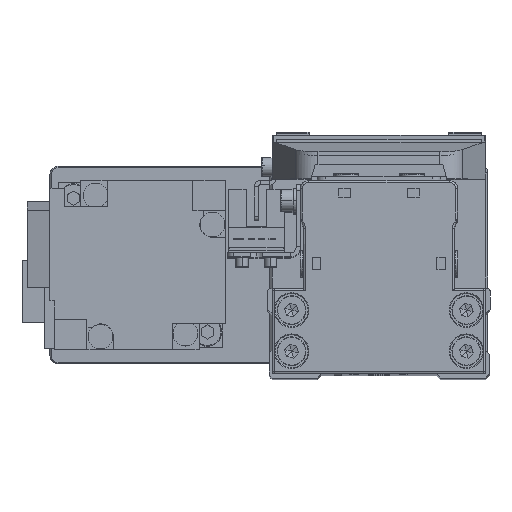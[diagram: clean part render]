
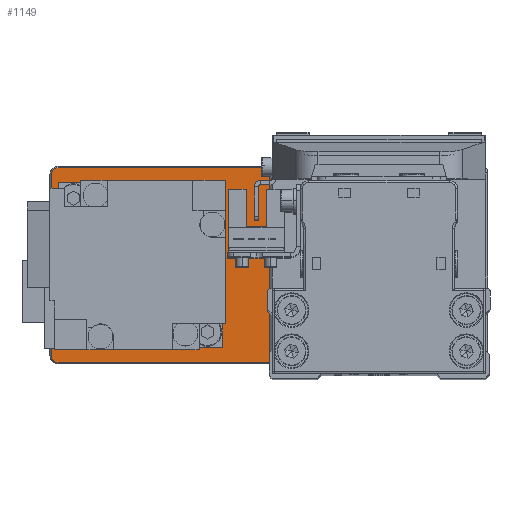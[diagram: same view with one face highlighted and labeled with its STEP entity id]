
A CAD part, top view. The second image highlights one B-rep face of the part: STEP entity #1149.
In plain terms, the highlighted planar face has unit normal (0, 0, 1).
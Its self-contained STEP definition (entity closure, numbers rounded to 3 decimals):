
#328 = AXIS2_PLACEMENT_3D ( 'NONE', #6018, #18250, #30450 ) ;
#560 = CARTESIAN_POINT ( 'NONE',  ( 50., 23.7, 5. ) ) ;
#1115 = LINE ( 'NONE', #13335, #29403 ) ;
#1149 = ADVANCED_FACE ( 'NONE', ( #2893, #15105, #27322 ), #39540, .T. ) ;
#1393 = LINE ( 'NONE', #13608, #30484 ) ;
#1611 = DIRECTION ( 'NONE',  ( 1., 0., 0. ) ) ;
#2135 = EDGE_CURVE ( 'NONE', #30630, #8050, #1115, .T. ) ;
#2742 = CARTESIAN_POINT ( 'NONE',  ( 17.2, 0., 5. ) ) ;
#2893 = FACE_BOUND ( 'NONE', #14436, .T. ) ;
#3057 = DIRECTION ( 'NONE',  ( 0., 0., -1. ) ) ;
#3425 = LINE ( 'NONE', #15628, #35489 ) ;
#5460 = DIRECTION ( 'NONE',  ( 1., 0., 0. ) ) ;
#6018 = CARTESIAN_POINT ( 'NONE',  ( -50., 22., 5. ) ) ;
#6131 = EDGE_CURVE ( 'NONE', #8050, #19348, #34853, .T. ) ;
#7416 = EDGE_CURVE ( 'NONE', #19348, #31171, #3425, .T. ) ;
#7717 = CARTESIAN_POINT ( 'NONE',  ( -28., 0., 5. ) ) ;
#8050 = VERTEX_POINT ( 'NONE', #36275 ) ;
#8148 = CARTESIAN_POINT ( 'NONE',  ( -50., -22., 5. ) ) ;
#8310 = ORIENTED_EDGE ( 'NONE', *, *, #2135, .T. ) ;
#8361 = EDGE_CURVE ( 'NONE', #12541, #29673, #32345, .T. ) ;
#8478 = LINE ( 'NONE', #20693, #26260 ) ;
#8558 = DIRECTION ( 'NONE',  ( 0., 0., -1. ) ) ;
#9532 = ORIENTED_EDGE ( 'NONE', *, *, #38568, .T. ) ;
#9583 = AXIS2_PLACEMENT_3D ( 'NONE', #12670, #24893, #37115 ) ;
#9888 = VERTEX_POINT ( 'NONE', #34416 ) ;
#11306 = ORIENTED_EDGE ( 'NONE', *, *, #36191, .T. ) ;
#12051 = ORIENTED_EDGE ( 'NONE', *, *, #22378, .T. ) ;
#12075 = AXIS2_PLACEMENT_3D ( 'NONE', #12104, #24321, #36539 ) ;
#12086 = ORIENTED_EDGE ( 'NONE', *, *, #8361, .T. ) ;
#12104 = CARTESIAN_POINT ( 'NONE',  ( 0., 0., 5. ) ) ;
#12122 = ORIENTED_EDGE ( 'NONE', *, *, #17499, .T. ) ;
#12541 = VERTEX_POINT ( 'NONE', #20259 ) ;
#12618 = AXIS2_PLACEMENT_3D ( 'NONE', #7717, #19941, #32137 ) ;
#12670 = CARTESIAN_POINT ( 'NONE',  ( 30., 0., 5. ) ) ;
#13335 = CARTESIAN_POINT ( 'NONE',  ( -50., 23.7, 5. ) ) ;
#13608 = CARTESIAN_POINT ( 'NONE',  ( 50., -23.7, 5. ) ) ;
#14436 = EDGE_LOOP ( 'NONE', ( #11306, #26116 ) ) ;
#15076 = AXIS2_PLACEMENT_3D ( 'NONE', #16845, #29047, #1611 ) ;
#15105 = FACE_BOUND ( 'NONE', #20078, .T. ) ;
#15270 = DIRECTION ( 'NONE',  ( 1., 0., 0. ) ) ;
#15628 = CARTESIAN_POINT ( 'NONE',  ( -51.7, -22., 5. ) ) ;
#15793 = CIRCLE ( 'NONE', #38175, 1.7 ) ;
#15914 = CARTESIAN_POINT ( 'NONE',  ( -17.7, 0., 5. ) ) ;
#16845 = CARTESIAN_POINT ( 'NONE',  ( 50., -22., 5. ) ) ;
#17166 = CARTESIAN_POINT ( 'NONE',  ( -38.3, 0., 5. ) ) ;
#17247 = AXIS2_PLACEMENT_3D ( 'NONE', #20689, #32886, #5460 ) ;
#17499 = EDGE_CURVE ( 'NONE', #28448, #12541, #1393, .T. ) ;
#17902 = CARTESIAN_POINT ( 'NONE',  ( -50., -23.7, 5. ) ) ;
#18250 = DIRECTION ( 'NONE',  ( 0., 0., 1. ) ) ;
#18421 = AXIS2_PLACEMENT_3D ( 'NONE', #35984, #8558, #20773 ) ;
#19348 = VERTEX_POINT ( 'NONE', #30368 ) ;
#19500 = ORIENTED_EDGE ( 'NONE', *, *, #6131, .T. ) ;
#19941 = DIRECTION ( 'NONE',  ( 0., 0., -1. ) ) ;
#20078 = EDGE_LOOP ( 'NONE', ( #34546, #21755 ) ) ;
#20259 = CARTESIAN_POINT ( 'NONE',  ( 50., -23.7, 5. ) ) ;
#20300 = VERTEX_POINT ( 'NONE', #2742 ) ;
#20368 = DIRECTION ( 'NONE',  ( 0., 0., 1. ) ) ;
#20518 = AXIS2_PLACEMENT_3D ( 'NONE', #30497, #3057, #15270 ) ;
#20522 = CARTESIAN_POINT ( 'NONE',  ( 42.8, 0., 5. ) ) ;
#20689 = CARTESIAN_POINT ( 'NONE',  ( 50., 22., 5. ) ) ;
#20693 = CARTESIAN_POINT ( 'NONE',  ( 51.7, 22., 5. ) ) ;
#20773 = DIRECTION ( 'NONE',  ( 1., 0., 0. ) ) ;
#21062 = EDGE_CURVE ( 'NONE', #9888, #30630, #34483, .T. ) ;
#21507 = CARTESIAN_POINT ( 'NONE',  ( 51.7, -22., 5. ) ) ;
#21755 = ORIENTED_EDGE ( 'NONE', *, *, #22500, .T. ) ;
#22127 = VERTEX_POINT ( 'NONE', #15914 ) ;
#22378 = EDGE_CURVE ( 'NONE', #29673, #9888, #8478, .T. ) ;
#22500 = EDGE_CURVE ( 'NONE', #24199, #22127, #37778, .T. ) ;
#24199 = VERTEX_POINT ( 'NONE', #17166 ) ;
#24321 = DIRECTION ( 'NONE',  ( 0., 0., 1. ) ) ;
#24893 = DIRECTION ( 'NONE',  ( 0., 0., -1. ) ) ;
#25555 = DIRECTION ( 'NONE',  ( -1., 0., 0. ) ) ;
#25834 = DIRECTION ( 'NONE',  ( 1., 0., 0. ) ) ;
#26116 = ORIENTED_EDGE ( 'NONE', *, *, #34224, .T. ) ;
#26260 = VECTOR ( 'NONE', #32889, 1000. ) ;
#26839 = CIRCLE ( 'NONE', #9583, 12.8 ) ;
#27322 = FACE_OUTER_BOUND ( 'NONE', #35639, .T. ) ;
#27843 = DIRECTION ( 'NONE',  ( 0., -1., 0. ) ) ;
#28448 = VERTEX_POINT ( 'NONE', #17902 ) ;
#28762 = ORIENTED_EDGE ( 'NONE', *, *, #21062, .T. ) ;
#29047 = DIRECTION ( 'NONE',  ( 0., 0., 1. ) ) ;
#29403 = VECTOR ( 'NONE', #25555, 1000. ) ;
#29673 = VERTEX_POINT ( 'NONE', #21507 ) ;
#29876 = CIRCLE ( 'NONE', #12618, 10.3 ) ;
#30368 = CARTESIAN_POINT ( 'NONE',  ( -51.7, 22., 5. ) ) ;
#30450 = DIRECTION ( 'NONE',  ( 1., 0., 0. ) ) ;
#30484 = VECTOR ( 'NONE', #25834, 1000. ) ;
#30497 = CARTESIAN_POINT ( 'NONE',  ( -28., 0., 5. ) ) ;
#30630 = VERTEX_POINT ( 'NONE', #560 ) ;
#31171 = VERTEX_POINT ( 'NONE', #37560 ) ;
#32137 = DIRECTION ( 'NONE',  ( 1., 0., 0. ) ) ;
#32345 = CIRCLE ( 'NONE', #15076, 1.7 ) ;
#32572 = DIRECTION ( 'NONE',  ( 1., 0., 0. ) ) ;
#32886 = DIRECTION ( 'NONE',  ( 0., 0., 1. ) ) ;
#32889 = DIRECTION ( 'NONE',  ( 0., 1., 0. ) ) ;
#34224 = EDGE_CURVE ( 'NONE', #20300, #39085, #35668, .T. ) ;
#34416 = CARTESIAN_POINT ( 'NONE',  ( 51.7, 22., 5. ) ) ;
#34483 = CIRCLE ( 'NONE', #17247, 1.7 ) ;
#34546 = ORIENTED_EDGE ( 'NONE', *, *, #38994, .T. ) ;
#34853 = CIRCLE ( 'NONE', #328, 1.7 ) ;
#35489 = VECTOR ( 'NONE', #27843, 1000. ) ;
#35639 = EDGE_LOOP ( 'NONE', ( #12122, #12086, #12051, #28762, #8310, #19500, #37571, #9532 ) ) ;
#35668 = CIRCLE ( 'NONE', #18421, 12.8 ) ;
#35984 = CARTESIAN_POINT ( 'NONE',  ( 30., 0., 5. ) ) ;
#36191 = EDGE_CURVE ( 'NONE', #39085, #20300, #26839, .T. ) ;
#36275 = CARTESIAN_POINT ( 'NONE',  ( -50., 23.7, 5. ) ) ;
#36539 = DIRECTION ( 'NONE',  ( 1., 0., 0. ) ) ;
#37115 = DIRECTION ( 'NONE',  ( 1., 0., 0. ) ) ;
#37560 = CARTESIAN_POINT ( 'NONE',  ( -51.7, -22., 5. ) ) ;
#37571 = ORIENTED_EDGE ( 'NONE', *, *, #7416, .T. ) ;
#37778 = CIRCLE ( 'NONE', #20518, 10.3 ) ;
#38175 = AXIS2_PLACEMENT_3D ( 'NONE', #8148, #20368, #32572 ) ;
#38568 = EDGE_CURVE ( 'NONE', #31171, #28448, #15793, .T. ) ;
#38994 = EDGE_CURVE ( 'NONE', #22127, #24199, #29876, .T. ) ;
#39085 = VERTEX_POINT ( 'NONE', #20522 ) ;
#39540 = PLANE ( 'NONE',  #12075 ) ;
